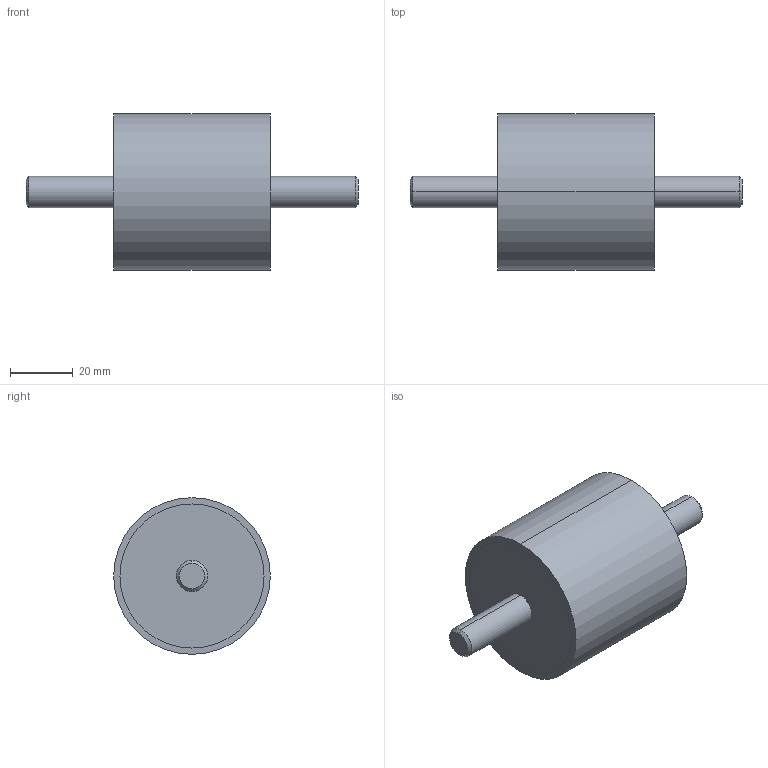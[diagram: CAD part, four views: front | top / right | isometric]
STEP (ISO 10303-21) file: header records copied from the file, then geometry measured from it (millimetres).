
FILE_DESCRIPTION (( 'STEP AP214' ), '1' );
FILE_NAME ('351-50-50-M10-SS-70.step', '2025-07-23T09:46:09', ( '' ), ( '' ), 'SwSTEP 2.0', 'SolidWorks 2022', '' );
FILE_SCHEMA (( 'AUTOMOTIVE_DESIGN' ));
Length unit declared in the file: millimetre
Products named in the file (1): 351-50-50-M10-SS-70
Bounding box: 106 x 50 x 50 mm (x, y, z)
Volume: 102514.8 mm3; surface area: 13506.5 mm2
Topology: 1 solids, 1 shells, 20 faces, 38 edges, 24 vertices
Faces by surface type: cylinder 10, plane 6, cone 4
Entity records: 636 total; most frequent: DIRECTION 104, CARTESIAN_POINT 83, ORIENTED_EDGE 76, AXIS2_PLACEMENT_3D 45, EDGE_CURVE 38, EDGE_LOOP 24, VERTEX_POINT 24, CIRCLE 24
